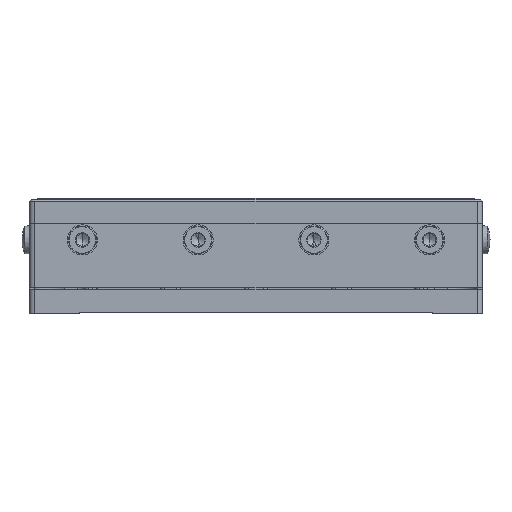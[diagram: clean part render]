
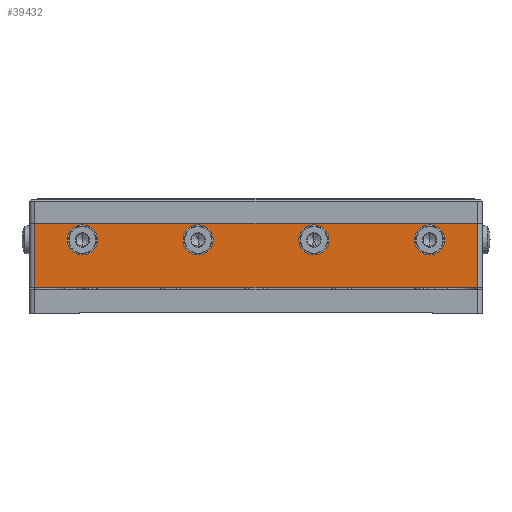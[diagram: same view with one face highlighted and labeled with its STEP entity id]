
A CAD part, front view. The second image highlights one B-rep face of the part: STEP entity #39432.
In plain terms, the highlighted planar face has unit normal (0, -1, 0).
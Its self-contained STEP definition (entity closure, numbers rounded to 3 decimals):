
#413 = DIRECTION ( 'NONE',  ( 1., 0., 0. ) ) ;
#501 = ORIENTED_EDGE ( 'NONE', *, *, #46859, .F. ) ;
#1707 = EDGE_CURVE ( 'NONE', #70727, #26074, #53388, .T. ) ;
#1750 = EDGE_CURVE ( 'NONE', #8897, #61028, #69287, .T. ) ;
#2331 = CARTESIAN_POINT ( 'NONE',  ( -8.5, -30., 3.3 ) ) ;
#2541 = DIRECTION ( 'NONE',  ( 0., -1., 0. ) ) ;
#4266 = PLANE ( 'NONE',  #79557 ) ;
#4364 = CARTESIAN_POINT ( 'NONE',  ( 11.5, -30., 3.3 ) ) ;
#5491 = CARTESIAN_POINT ( 'NONE',  ( -45., -30., 6.6 ) ) ;
#5957 = VECTOR ( 'NONE', #68394, 1000. ) ;
#6209 = VERTEX_POINT ( 'NONE', #77823 ) ;
#7516 = EDGE_LOOP ( 'NONE', ( #14651, #22185 ) ) ;
#7889 = DIRECTION ( 'NONE',  ( -1., 0., 0. ) ) ;
#8719 = VERTEX_POINT ( 'NONE', #20613 ) ;
#8897 = VERTEX_POINT ( 'NONE', #60681 ) ;
#9041 = CARTESIAN_POINT ( 'NONE',  ( 44., -30., -6.2 ) ) ;
#10770 = EDGE_LOOP ( 'NONE', ( #32743, #26999, #501, #60106 ) ) ;
#10991 = DIRECTION ( 'NONE',  ( 1., 0., 0. ) ) ;
#11293 = DIRECTION ( 'NONE',  ( 0., -1., 0. ) ) ;
#11664 = EDGE_CURVE ( 'NONE', #26074, #70727, #64281, .T. ) ;
#12402 = CARTESIAN_POINT ( 'NONE',  ( -44., -30., -6.2 ) ) ;
#12512 = ORIENTED_EDGE ( 'NONE', *, *, #1750, .F. ) ;
#12703 = CARTESIAN_POINT ( 'NONE',  ( -11.5, -30., 3.3 ) ) ;
#14153 = DIRECTION ( 'NONE',  ( -1., 0., 0. ) ) ;
#14307 = DIRECTION ( 'NONE',  ( 0., 0., 1. ) ) ;
#14651 = ORIENTED_EDGE ( 'NONE', *, *, #11664, .F. ) ;
#15019 = CIRCLE ( 'NONE', #61344, 3. ) ;
#15120 = EDGE_CURVE ( 'NONE', #16134, #57358, #68143, .T. ) ;
#15135 = DIRECTION ( 'NONE',  ( 0., -1., 0. ) ) ;
#15391 = EDGE_CURVE ( 'NONE', #27880, #56402, #69218, .T. ) ;
#15582 = VECTOR ( 'NONE', #14307, 1000. ) ;
#16134 = VERTEX_POINT ( 'NONE', #25826 ) ;
#17280 = CARTESIAN_POINT ( 'NONE',  ( 34.5, -30., 3.3 ) ) ;
#17892 = AXIS2_PLACEMENT_3D ( 'NONE', #17280, #42584, #62077 ) ;
#17914 = EDGE_CURVE ( 'NONE', #27880, #43606, #77311, .T. ) ;
#19048 = LINE ( 'NONE', #43521, #75895 ) ;
#19894 = CARTESIAN_POINT ( 'NONE',  ( 34.5, -30., 3.3 ) ) ;
#20321 = DIRECTION ( 'NONE',  ( 0., -1., 0. ) ) ;
#20613 = CARTESIAN_POINT ( 'NONE',  ( 8.5, -30., 3.3 ) ) ;
#20738 = CARTESIAN_POINT ( 'NONE',  ( -34.5, -30., 3.3 ) ) ;
#20815 = ORIENTED_EDGE ( 'NONE', *, *, #15120, .F. ) ;
#21332 = EDGE_CURVE ( 'NONE', #23191, #56402, #19048, .T. ) ;
#21421 = ORIENTED_EDGE ( 'NONE', *, *, #21515, .F. ) ;
#21515 = EDGE_CURVE ( 'NONE', #6209, #8719, #15019, .T. ) ;
#21565 = ORIENTED_EDGE ( 'NONE', *, *, #29148, .F. ) ;
#21937 = CARTESIAN_POINT ( 'NONE',  ( -44., -30., 6.6 ) ) ;
#22185 = ORIENTED_EDGE ( 'NONE', *, *, #1707, .F. ) ;
#23191 = VERTEX_POINT ( 'NONE', #42480 ) ;
#23244 = ORIENTED_EDGE ( 'NONE', *, *, #60169, .F. ) ;
#23354 = FACE_BOUND ( 'NONE', #33097, .T. ) ;
#25186 = DIRECTION ( 'NONE',  ( 1., 0., 0. ) ) ;
#25201 = AXIS2_PLACEMENT_3D ( 'NONE', #34221, #15135, #40448 ) ;
#25826 = CARTESIAN_POINT ( 'NONE',  ( -14.5, -30., 3.3 ) ) ;
#26074 = VERTEX_POINT ( 'NONE', #35538 ) ;
#26999 = ORIENTED_EDGE ( 'NONE', *, *, #21332, .F. ) ;
#27880 = VERTEX_POINT ( 'NONE', #57692 ) ;
#28544 = AXIS2_PLACEMENT_3D ( 'NONE', #45277, #2541, #14153 ) ;
#29148 = EDGE_CURVE ( 'NONE', #61028, #8897, #62224, .T. ) ;
#30375 = FACE_BOUND ( 'NONE', #7516, .T. ) ;
#32743 = ORIENTED_EDGE ( 'NONE', *, *, #15391, .T. ) ;
#33097 = EDGE_LOOP ( 'NONE', ( #12512, #21565 ) ) ;
#34221 = CARTESIAN_POINT ( 'NONE',  ( -34.5, -30., 3.3 ) ) ;
#35538 = CARTESIAN_POINT ( 'NONE',  ( 37.5, -30., 3.3 ) ) ;
#36057 = DIRECTION ( 'NONE',  ( -1., 0., 0. ) ) ;
#39432 = ADVANCED_FACE ( 'NONE', ( #23354, #30375, #42802, #49453, #79697 ), #4266, .T. ) ;
#40448 = DIRECTION ( 'NONE',  ( -1., 0., 0. ) ) ;
#42480 = CARTESIAN_POINT ( 'NONE',  ( 44., -30., 6.6 ) ) ;
#42584 = DIRECTION ( 'NONE',  ( 0., -1., 0. ) ) ;
#42802 = FACE_BOUND ( 'NONE', #48354, .T. ) ;
#43521 = CARTESIAN_POINT ( 'NONE',  ( 44., -30., 6.6 ) ) ;
#43606 = VERTEX_POINT ( 'NONE', #54550 ) ;
#45277 = CARTESIAN_POINT ( 'NONE',  ( 11.5, -30., 3.3 ) ) ;
#45420 = AXIS2_PLACEMENT_3D ( 'NONE', #12703, #70331, #25186 ) ;
#45444 = EDGE_CURVE ( 'NONE', #57358, #16134, #50668, .T. ) ;
#45703 = AXIS2_PLACEMENT_3D ( 'NONE', #61368, #48529, #36057 ) ;
#45859 = CARTESIAN_POINT ( 'NONE',  ( -44., -30., -6.2 ) ) ;
#46042 = DIRECTION ( 'NONE',  ( 0., -1., 0. ) ) ;
#46859 = EDGE_CURVE ( 'NONE', #43606, #23191, #48046, .T. ) ;
#48046 = LINE ( 'NONE', #21937, #58885 ) ;
#48354 = EDGE_LOOP ( 'NONE', ( #21421, #23244 ) ) ;
#48529 = DIRECTION ( 'NONE',  ( 0., -1., 0. ) ) ;
#49453 = FACE_BOUND ( 'NONE', #52753, .T. ) ;
#49950 = CARTESIAN_POINT ( 'NONE',  ( -37.5, -30., 3.3 ) ) ;
#50668 = CIRCLE ( 'NONE', #45420, 3. ) ;
#50996 = DIRECTION ( 'NONE',  ( 0., 0., -1. ) ) ;
#52412 = CIRCLE ( 'NONE', #28544, 3. ) ;
#52753 = EDGE_LOOP ( 'NONE', ( #54810, #20815 ) ) ;
#53388 = CIRCLE ( 'NONE', #70596, 3. ) ;
#54550 = CARTESIAN_POINT ( 'NONE',  ( -44., -30., 6.6 ) ) ;
#54810 = ORIENTED_EDGE ( 'NONE', *, *, #45444, .F. ) ;
#55258 = DIRECTION ( 'NONE',  ( 0., 0., -1. ) ) ;
#55768 = DIRECTION ( 'NONE',  ( 0., -1., 0. ) ) ;
#56402 = VERTEX_POINT ( 'NONE', #9041 ) ;
#57358 = VERTEX_POINT ( 'NONE', #2331 ) ;
#57692 = CARTESIAN_POINT ( 'NONE',  ( -44., -30., -6.2 ) ) ;
#58885 = VECTOR ( 'NONE', #61281, 1000. ) ;
#60106 = ORIENTED_EDGE ( 'NONE', *, *, #17914, .F. ) ;
#60169 = EDGE_CURVE ( 'NONE', #8719, #6209, #52412, .T. ) ;
#60681 = CARTESIAN_POINT ( 'NONE',  ( -31.5, -30., 3.3 ) ) ;
#61028 = VERTEX_POINT ( 'NONE', #49950 ) ;
#61281 = DIRECTION ( 'NONE',  ( 1., 0., 0. ) ) ;
#61344 = AXIS2_PLACEMENT_3D ( 'NONE', #4364, #55768, #10991 ) ;
#61368 = CARTESIAN_POINT ( 'NONE',  ( -11.5, -30., 3.3 ) ) ;
#62077 = DIRECTION ( 'NONE',  ( 1., 0., 0. ) ) ;
#62224 = CIRCLE ( 'NONE', #25201, 3. ) ;
#63098 = CARTESIAN_POINT ( 'NONE',  ( 31.5, -30., 3.3 ) ) ;
#64281 = CIRCLE ( 'NONE', #17892, 3. ) ;
#68143 = CIRCLE ( 'NONE', #45703, 3. ) ;
#68394 = DIRECTION ( 'NONE',  ( 1., 0., 0. ) ) ;
#69218 = LINE ( 'NONE', #12402, #5957 ) ;
#69287 = CIRCLE ( 'NONE', #79844, 3. ) ;
#70331 = DIRECTION ( 'NONE',  ( 0., -1., 0. ) ) ;
#70596 = AXIS2_PLACEMENT_3D ( 'NONE', #19894, #20321, #7889 ) ;
#70727 = VERTEX_POINT ( 'NONE', #63098 ) ;
#75895 = VECTOR ( 'NONE', #50996, 1000. ) ;
#77311 = LINE ( 'NONE', #45859, #15582 ) ;
#77823 = CARTESIAN_POINT ( 'NONE',  ( 14.5, -30., 3.3 ) ) ;
#79557 = AXIS2_PLACEMENT_3D ( 'NONE', #5491, #11293, #55258 ) ;
#79697 = FACE_OUTER_BOUND ( 'NONE', #10770, .T. ) ;
#79844 = AXIS2_PLACEMENT_3D ( 'NONE', #20738, #46042, #413 ) ;
